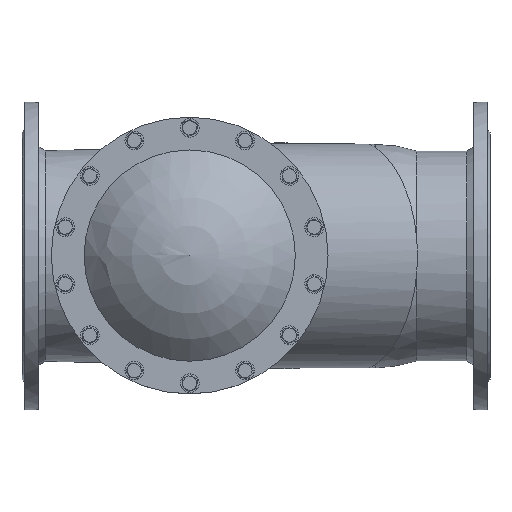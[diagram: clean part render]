
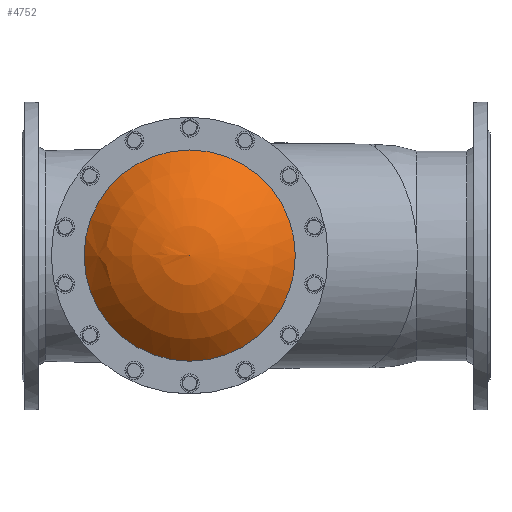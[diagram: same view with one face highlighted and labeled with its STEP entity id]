
A CAD part, top view. The second image highlights one B-rep face of the part: STEP entity #4752.
In plain terms, the highlighted spherical face has radius 207.45 mm.
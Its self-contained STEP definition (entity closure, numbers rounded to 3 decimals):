
#4752=ADVANCED_FACE('',(#8845),#8847,.T.);
#8845=FACE_OUTER_BOUND('',#8846,.T.);
#8846=EDGE_LOOP('',(#13619));
#8847=SPHERICAL_SURFACE('',#8848,207.449);
#8848=AXIS2_PLACEMENT_3D('',#8849,#8850,#8851);
#8849=CARTESIAN_POINT('',(0.,0.,-120.449));
#8850=DIRECTION('',(0.,0.,1.));
#8851=DIRECTION('',(0.,1.,0.));
#13619=ORIENTED_EDGE('',*,*,#14939,.F.);
#14939=EDGE_CURVE('',#16883,#16883,#16884,.F.);
#16883=VERTEX_POINT('',#23610);
#16884=CIRCLE('',#23611,157.983);
#23610=CARTESIAN_POINT('',(0.,157.983,14.));
#23611=AXIS2_PLACEMENT_3D('',#23612,#23613,#23614);
#23612=CARTESIAN_POINT('',(0.,0.,14.));
#23613=DIRECTION('',(0.,0.,1.));
#23614=DIRECTION('',(0.,1.,0.));
